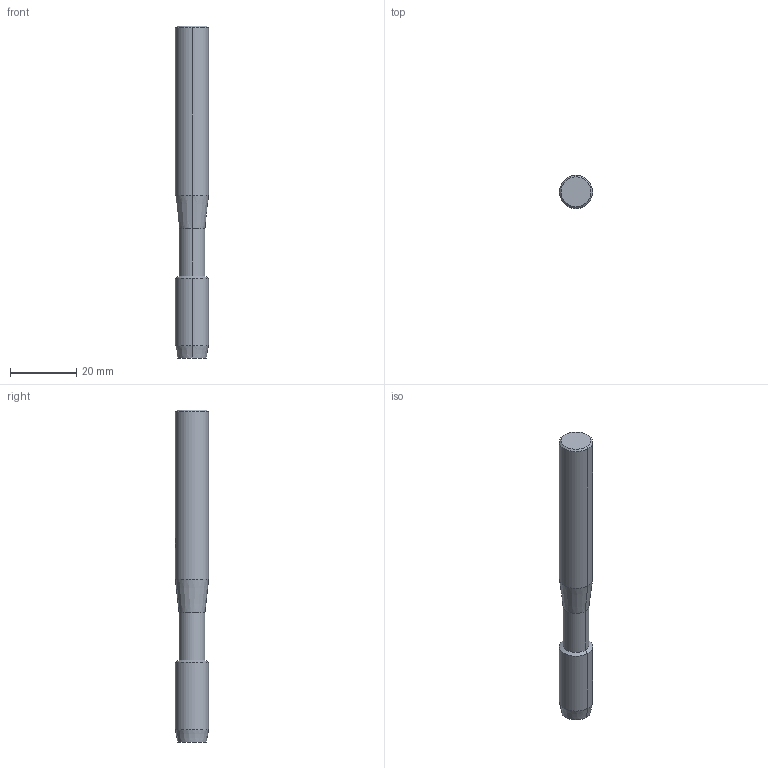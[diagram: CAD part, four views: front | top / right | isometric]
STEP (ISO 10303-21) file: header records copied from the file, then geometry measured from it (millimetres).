
FILE_DESCRIPTION(('no description'),'unknown implementation level');
FILE_NAME('solidZRrZsiZWHjgwviyI5yY3Vho8i9w_1.STP',' ',('CIMSOURCE GmbH'),('CADClick - KiM GmbH - www.kimweb.de'),'unknown preprocess','ACIS','unknown authorization');
FILE_SCHEMA(('automotive_design'));
Length unit declared in the file: millimetre
Products named in the file (2): NOCUT; CUT
Bounding box: 10 x 10 x 100 mm (x, y, z)
Volume: 7200.9 mm3; surface area: 4278.1 mm2
Topology: 2 solids, 2 shells, 39 faces, 89 edges, 54 vertices
Faces by surface type: cylinder 18, cone 12, plane 9
Entity records: 2402 total; most frequent: CARTESIAN_POINT 437, DIRECTION 197, STYLED_ITEM 184, PRESENTATION_STYLE_ASSIGNMENT 184, COLOUR_RGB 184, ORIENTED_EDGE 178, EDGE_CURVE 89, CURVE_STYLE 89
